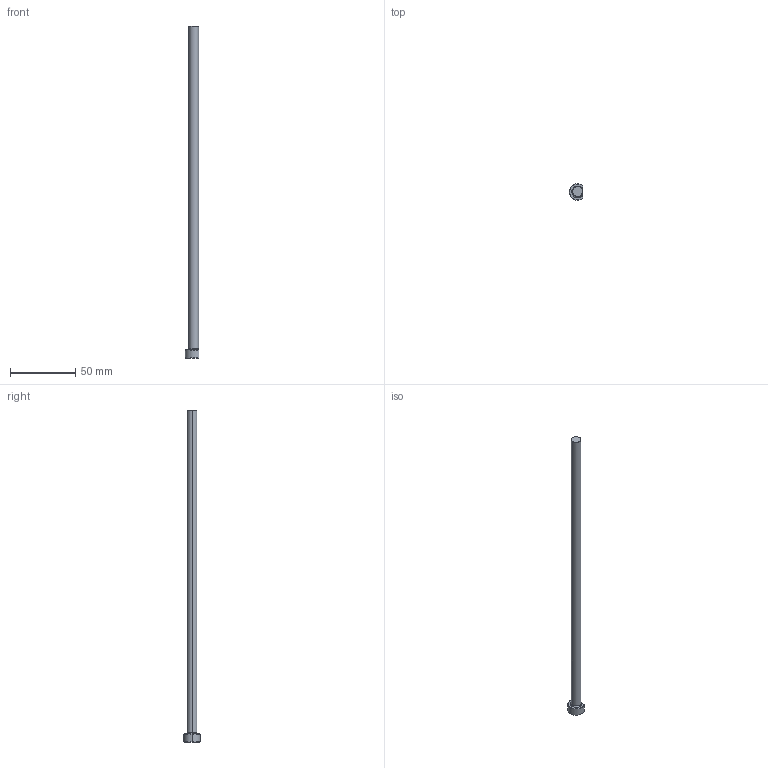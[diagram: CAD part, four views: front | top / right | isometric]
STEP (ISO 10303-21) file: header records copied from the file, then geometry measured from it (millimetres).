
FILE_DESCRIPTION (( 'STEP AP203' ), '1' );
FILE_NAME ('EP297L10-K.step', '2022-03-20T09:58:11', ( 'Microsoft Corporation' ), ( 'MS' ), 'SwSTEP 2.0', 'SolidWorks 2019', '' );
FILE_SCHEMA (( 'CONFIG_CONTROL_DESIGN' ));
Length unit declared in the file: inch
Products named in the file (1): EP297L10-K
Bounding box: 10.12 x 12.69 x 254 mm (x, y, z)
Volume: 11742.4 mm3; surface area: 6309.3 mm2
Topology: 1 solids, 1 shells, 13 faces, 29 edges, 18 vertices
Faces by surface type: cylinder 4, plane 4, cone 3, torus 2
Entity records: 458 total; most frequent: CARTESIAN_POINT 87, DIRECTION 65, ORIENTED_EDGE 58, EDGE_CURVE 29, AXIS2_PLACEMENT_3D 28, VERTEX_POINT 18, CIRCLE 14, FACE_OUTER_BOUND 13
